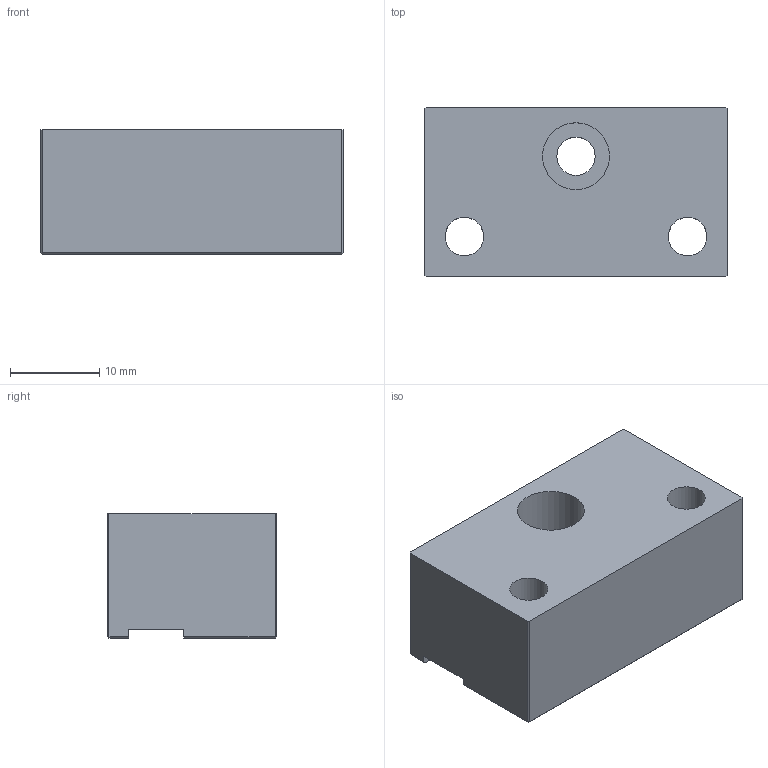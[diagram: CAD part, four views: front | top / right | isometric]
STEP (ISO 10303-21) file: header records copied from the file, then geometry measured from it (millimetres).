
FILE_DESCRIPTION(/* description */ (''),/* implementation_level */ '2;1');
FILE_NAME(/* name */ '',/* time_stamp */ '2025-12-08T17:39:00+08:00',/* author */ ('Q'),/* organization */ (''),/* preprocessor_version */ 'ST-DEVELOPER v20',/* originating_system */ 'Autodesk Inventor 2025',/* authorisation */ '');
FILE_SCHEMA (('AUTOMOTIVE_DESIGN { 1 0 10303 214 3 1 1 }'));
Length unit declared in the file: millimetre
Products named in the file (1): 单波片底座
Bounding box: 34 x 19 x 14 mm (x, y, z)
Volume: 7463.8 mm3; surface area: 3542 mm2
Topology: 1 solids, 1 shells, 33 faces, 72 edges, 44 vertices
Faces by surface type: plane 27, cylinder 6
Full cylindrical faces by diameter (mm): 4.3 x3, 7.5 x3
Entity records: 937 total; most frequent: DIRECTION 152, CARTESIAN_POINT 150, ORIENTED_EDGE 144, EDGE_CURVE 72, LINE 60, VECTOR 60, AXIS2_PLACEMENT_3D 46, VERTEX_POINT 44
